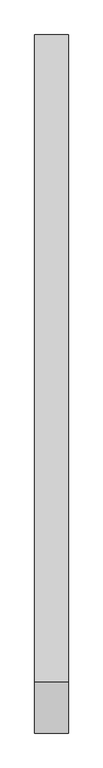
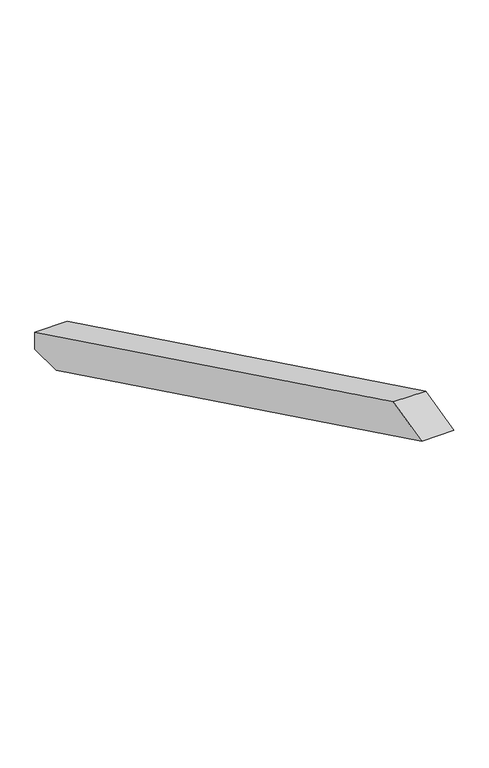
"""IFC4 building model written with IfcOpenShell, lengths in millimetres: proxy geometry, Modelos genéricos 39 : Modelos genéricos 16."""

from ifc_helpers import new_model, si_unit, frame, origin, place, context, project, spatial, polyline, outline, extrude, source, transform, mapped, element, save


def generic_models_e5b33059(model_context):
    return source(origin(), model_context, "Body", "SweptSolid", [
        extrude(outline(polyline([(723.3927505, 3756.8218964), (1878.6238165, 3193.3780582), (1878.6238165, 3160.0), (1810.1886555, 3160.0), (632.8220197, 3734.240077), (723.3927505, 3756.8218964)])), frame((-9026.5527533, 0.0, 0.0), z_axis=(1.0, 0.0, 0.0), x_axis=(0.0, 1.0, 0.0)), (0.0, 0.0, 1.0), 60.0),
    ])


if __name__ == "__main__":
    model = new_model("IFC4")
    model_context = context("Model", 3, world=origin())
    ifc_project = project(units=[si_unit("LENGTHUNIT", "METRE", prefix="MILLI")], contexts=[model_context])
    site = spatial("IfcSite", under=ifc_project)
    building = spatial("IfcBuilding", under=site)
    placement = place(None, origin())
    generic_models_shape = generic_models_e5b33059(model_context)
    element("IfcBuildingElementProxy", 1, Name="Modelos genéricos 39 : Modelos genéricos 16", ObjectType="Modelos genéricos 39 : Modelos genéricos 16", at=placement, inside=building, context=model_context, shape_type="MappedRepresentation", body=[
        mapped(generic_models_shape, transform((0.0, 0.0, 0.0), x_axis=(1.0, 0.0, 0.0), y_axis=(0.0, 1.0, 0.0), z_axis=(0.0, 0.0, 1.0))),
    ])
    save(model, "model.ifc")
